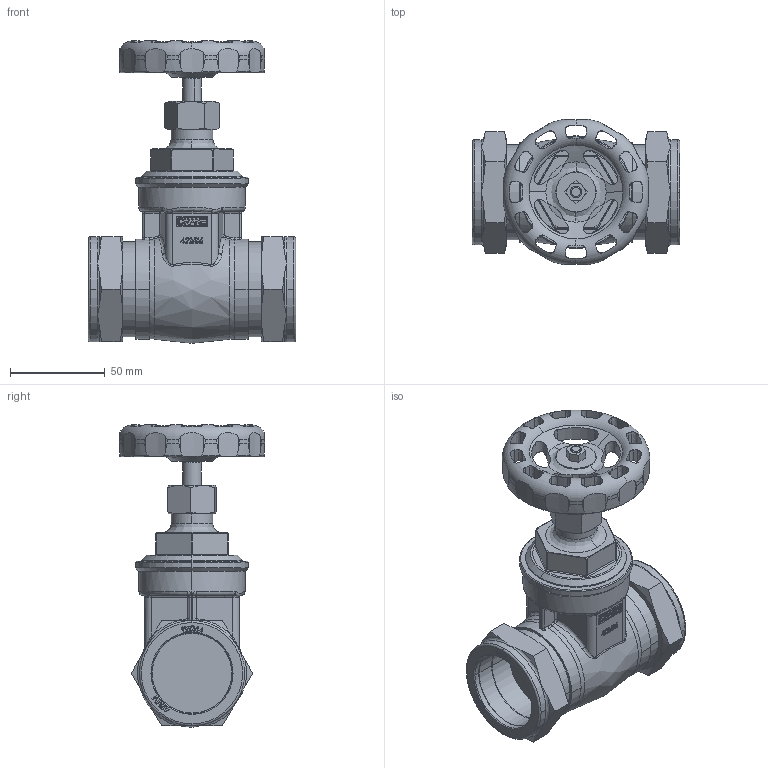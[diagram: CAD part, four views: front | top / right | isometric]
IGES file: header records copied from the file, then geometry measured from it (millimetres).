
Global section: file name: No Iges File Name specified; native system: AutoDesk Inventor R12.0; preprocessor: AutoDesk Inventor Iges Exporter R12.0; date: 20110311.151505; units: millimetre
Bounding box: 109.56 x 76.54 x 159.55 mm (x, y, z)
Volume: 322394.5 mm3; surface area: 67993.2 mm2
Topology: 1 solids, 3 shells, 1158 faces, 3175 edges, 2059 vertices
Faces by surface type: plane 533, bspline 263, revolution 164, cylinder 108, cone 60, torus 30
